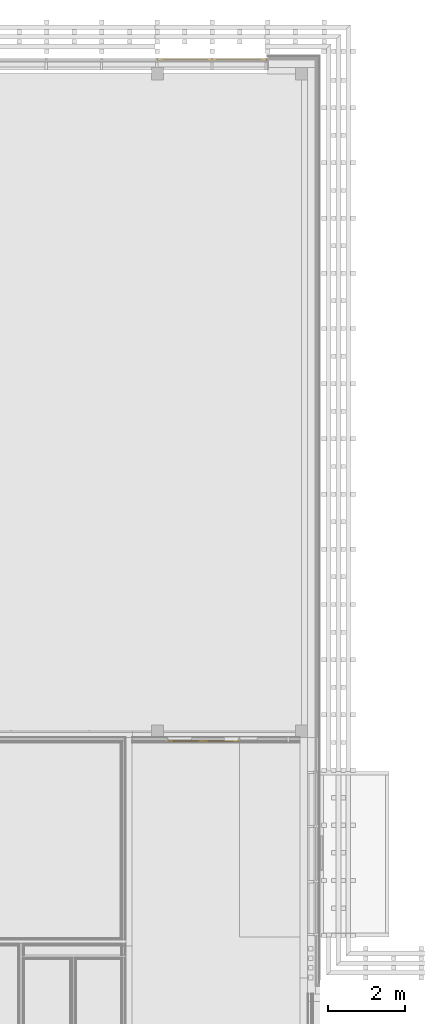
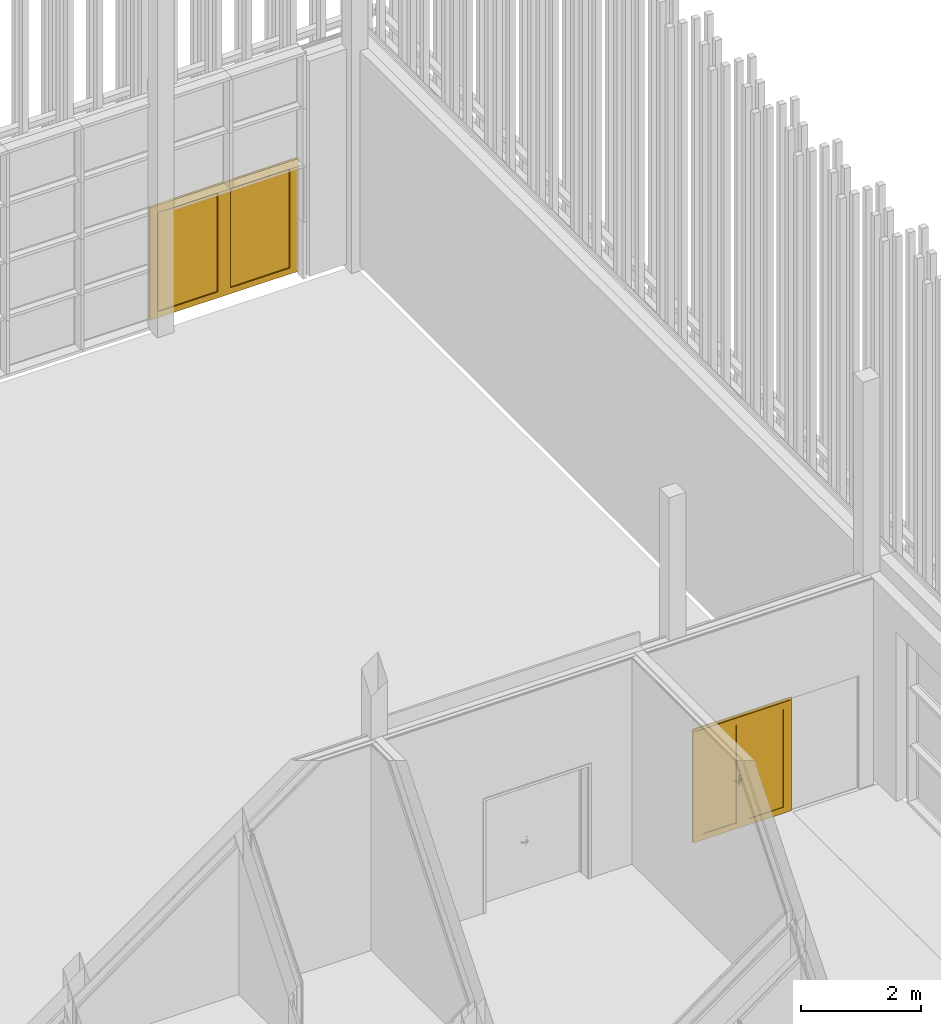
# One storey, part 253 of 260: 2 doors, 2 elements without a shape of their own.
"""IFC2X3 building model written with IfcOpenShell, lengths in millimetres."""

import ifcopenshell
import ifcopenshell.guid

model = None  # the IFC model being written
_history = None  # IfcOwnerHistory: only IFC2X3 demands one
_inside = {}  # id of a spatial element -> (the spatial element, [elements in it])
_under = {}  # id of a project, library or spatial element -> (it, [spatial elements below it])
_declared = {}  # id of a project -> (the project, [libraries it declares])
_typed = {}  # id of a type object -> (the type object, [elements of that type])
_made_of = {}  # id of a material, layer set ... -> (it, [elements and type objects made of it])


def new_model(schema):
    """Start an empty IFC model of exactly this schema.

    Asked for "IFC4X3", IfcOpenShell would pick the latest addendum, in which some entities
    have other attributes; the version numbers below select the first issue.
    IFC2X3 requires an IfcOwnerHistory on every rooted entity: one is made here for all.
    """
    global model, _history
    if schema == "IFC4X3":
        model = ifcopenshell.file(schema_version=(4, 3, 0, 0))
    else:
        model = ifcopenshell.file(schema=schema)
    _inside.clear()
    _under.clear()
    _declared.clear()
    _typed.clear()
    _made_of.clear()
    _history = None
    if model.schema == "IFC2X3":
        org = make("IfcOrganization", Name="unknown")
        user = make(
            "IfcPersonAndOrganization",
            ThePerson=make("IfcPerson", FamilyName="unknown"),
            TheOrganization=org,
        )
        app = make(
            "IfcApplication",
            ApplicationDeveloper=org,
            Version="unknown",
            ApplicationFullName="unknown",
            ApplicationIdentifier="unknown",
        )
        _history = make(
            "IfcOwnerHistory",
            OwningUser=user,
            OwningApplication=app,
            ChangeAction="ADDED",
            CreationDate=0,
        )
    return model


def make(cls, **values):
    """One entity of the class cls with the attributes given. An attribute that is None is left unset."""
    return model.create_entity(
        cls, **{name: value for name, value in values.items() if value is not None}
    )


def entity(cls, *values):
    """Any entity or typed value of the class cls, its attributes in the order of the schema. None: left unset."""
    e = model.create_entity(cls)
    for i, value in enumerate(values):
        if value is not None:
            e[i] = value
    return e


def rooted(cls, **values):
    """An entity with a GlobalId (a new one), such as an element, a storey or a relation."""
    return make(cls, GlobalId=ifcopenshell.guid.new(), OwnerHistory=_history, **values)


def si_unit(unit_type, name, prefix=None):
    """IfcSIUnit, for example si_unit("LENGTHUNIT", "METRE", prefix="MILLI")."""
    return make("IfcSIUnit", UnitType=unit_type, Prefix=prefix, Name=name)


def converted_unit(unit_type, name, factor, base, dimensions=None, offset=None):
    """IfcConversionBasedUnit, such as the inch: factor (a typed value) times the base unit."""
    return make(
        "IfcConversionBasedUnit"
        if offset is None
        else "IfcConversionBasedUnitWithOffset",
        ConversionOffset=offset,
        Dimensions=None
        if dimensions is None
        else entity("IfcDimensionalExponents", *dimensions),
        UnitType=unit_type,
        Name=name,
        ConversionFactor=make(
            "IfcMeasureWithUnit", ValueComponent=factor, UnitComponent=base
        ),
    )


def derived_unit(unit_type, elements):
    """IfcDerivedUnit: a product of units, each with its exponent."""
    return make(
        "IfcDerivedUnit",
        Elements=[
            make("IfcDerivedUnitElement", Unit=unit, Exponent=power)
            for unit, power in elements
        ],
        UnitType=unit_type,
    )


def money_unit(currency):
    """IfcMonetaryUnit."""
    return make("IfcMonetaryUnit", Currency=currency)


def assignment(units):
    """IfcUnitAssignment: the units of a project."""
    return None if units is None else make("IfcUnitAssignment", Units=units)


def point(xyz):
    """IfcCartesianPoint."""
    return None if xyz is None else make("IfcCartesianPoint", Coordinates=xyz)


def direction(xyz):
    """IfcDirection."""
    return None if xyz is None else make("IfcDirection", DirectionRatios=xyz)


def frame(location, z_axis=None, x_axis=None):
    """IfcAxis2Placement3D, a coordinate frame: its origin and axes. An axis left out is left unset."""
    return make(
        "IfcAxis2Placement3D",
        Location=point(location),
        Axis=direction(z_axis),
        RefDirection=direction(x_axis),
    )


def origin_with_axes():
    """The frame at (0, 0, 0) with the z axis (0, 0, 1) and the x axis (1, 0, 0) written out."""
    return frame((0.0, 0.0, 0.0), z_axis=(0.0, 0.0, 1.0), x_axis=(1.0, 0.0, 0.0))


def place(relative_to, where):
    """IfcLocalPlacement: puts the frame where relative to a parent placement (None: the world)."""
    return make(
        "IfcLocalPlacement", PlacementRelTo=relative_to, RelativePlacement=where
    )


def context(
    kind, dimensions, precision=None, world=None, true_north=None, identifier=None
):
    """IfcGeometricRepresentationContext, for example the 3D "Model" context."""
    return make(
        "IfcGeometricRepresentationContext",
        ContextIdentifier=identifier,
        ContextType=kind,
        CoordinateSpaceDimension=dimensions,
        Precision=precision,
        WorldCoordinateSystem=world,
        TrueNorth=true_north,
    )


def subcontext(parent, identifier, kind, view, scale=None):
    """IfcGeometricRepresentationSubContext, for example "Body" below "Model"."""
    return make(
        "IfcGeometricRepresentationSubContext",
        ContextIdentifier=identifier,
        ContextType=kind,
        ParentContext=parent,
        TargetScale=scale,
        TargetView=view,
    )


def project(units=None, contexts=None):
    """IfcProject with its units and contexts."""
    return rooted(
        "IfcProject",
        Name="project",
        RepresentationContexts=contexts,
        UnitsInContext=assignment(units),
    )


def spatial(cls, under=None, at=None, **own):
    """A site, building, storey or space (cls), placed at a placement, below another one or the project."""
    s = rooted(cls, ObjectPlacement=at, **own)
    if under is not None:
        _under.setdefault(under.id(), (under, []))[1].append(s)
    return s


def faces_of(points, faces, orient=None, outer=None):
    """IfcFace entities. A face is a list of loops; a loop is a list of indices into points, from 0.

    orient and outer hold one flag for each loop. By default every Orientation is true, the
    first loop of a face is its IfcFaceOuterBound and the others are IfcFaceBound.
    """
    made = []
    for i, loops in enumerate(faces):
        bounds = []
        for j, loop in enumerate(loops):
            is_outer = j == 0 if outer is None else outer[i][j]
            bounds.append(
                make(
                    "IfcFaceOuterBound" if is_outer else "IfcFaceBound",
                    Bound=make("IfcPolyLoop", Polygon=[points[k] for k in loop]),
                    Orientation=True if orient is None else orient[i][j],
                )
            )
        made.append(make("IfcFace", Bounds=bounds))
    return made


def open_shell(faces, orient=None, outer=None):
    """The faces of one IfcOpenShell. surface_model builds it on its shared points."""
    return ("IfcOpenShell", faces, orient, outer)


def faceted_brep(points, faces, orient=None, outer=None, voids=None):
    """IfcFacetedBrep: a solid bounded by flat faces; with voids (closed shells), ...WithVoids."""
    shared = [point(p) for p in points]
    hull = make("IfcClosedShell", CfsFaces=faces_of(shared, faces, orient, outer))
    if voids is None:
        return make("IfcFacetedBrep", Outer=hull)
    return make(
        "IfcFacetedBrepWithVoids",
        Outer=hull,
        Voids=[
            make(cls, CfsFaces=faces_of(shared, fs, o, b)) for cls, fs, o, b in voids
        ],
    )


def surface_model(cls, points, shells):
    """IfcFaceBasedSurfaceModel or IfcShellBasedSurfaceModel (cls): surfaces that need not close."""
    shared = [point(p) for p in points]
    made = [make(c, CfsFaces=faces_of(shared, fs, o, b)) for c, fs, o, b in shells]
    if cls == "IfcFaceBasedSurfaceModel":
        return make(cls, FbsmFaces=made)
    return make(cls, SbsmBoundary=made)


def shape(context_of_items, identifier, shape_type, items):
    """IfcShapeRepresentation: the items that make up one representation, for example the "Body"."""
    return make(
        "IfcShapeRepresentation",
        ContextOfItems=context_of_items,
        RepresentationIdentifier=identifier,
        RepresentationType=shape_type,
        Items=items,
    )


def material(Name=None, Category=None):
    """IfcMaterial."""
    return make("IfcMaterial", Name=Name, Category=Category)


def material_list(materials):
    """IfcMaterialList."""
    return make("IfcMaterialList", Materials=materials)


def made_of(thing, what):
    """Note that an element or type object is made of a material, layer set ...; save() writes the relation."""
    if what is not None:
        _made_of.setdefault(what.id(), (what, []))[1].append(thing)
    return thing


def type_object(cls, material=None, **own):
    """A type object (cls), such as IfcWallType, which elements share."""
    return made_of(rooted(cls, **own), material)


def element(
    cls,
    number,
    at=None,
    inside=None,
    cuts=None,
    type_object=None,
    material=None,
    context=None,
    identifier="Body",
    shape_type=None,
    held_by="IfcProductDefinitionShape",
    body=None,
    shapes=None,
    **own,
):
    """One element of the class cls, such as IfcWall. Its Tag is "e" and its number.

    at: its placement. inside: the storey or other place that contains it. cuts: it is an
    opening in that element (IfcRelVoidsElement). A single representation is given by context,
    identifier, shape_type and body (its items); several are given by shapes. held_by: the class
    of the entity that holds the representations. save() writes the other relations.
    """
    e = rooted(cls, Tag="e%d" % number, ObjectPlacement=at, **own)
    if body is not None:
        shapes = [shape(context, identifier, shape_type, body)]
    if shapes is not None:
        e.Representation = make(held_by, Representations=shapes)
    if inside is not None:
        _inside.setdefault(inside.id(), (inside, []))[1].append(e)
    if cuts is not None:
        rooted(
            "IfcRelVoidsElement", RelatingBuildingElement=cuts, RelatedOpeningElement=e
        )
    if type_object is not None:
        _typed.setdefault(type_object.id(), (type_object, []))[1].append(e)
    return made_of(e, material)


def aggregate(whole, parts):
    """IfcRelAggregates: a whole, such as a stair, and the parts it consists of."""
    return rooted("IfcRelAggregates", RelatingObject=whole, RelatedObjects=parts)


def save(model, path):
    """Write the relations noted so far, then the file.

    IfcRelAggregates (storeys below a building ...), IfcRelContainedInSpatialStructure (elements
    in a storey), IfcRelDefinesByType, IfcRelAssociatesMaterial and IfcRelDeclares: one each for
    every whole, place, type object, material and project.
    """
    for whole, parts in _under.values():
        aggregate(whole, parts)
    for where, things in _inside.values():
        rooted(
            "IfcRelContainedInSpatialStructure",
            RelatedElements=things,
            RelatingStructure=where,
        )
    for kind, things in _typed.values():
        rooted("IfcRelDefinesByType", RelatedObjects=things, RelatingType=kind)
    for what, things in _made_of.values():
        rooted("IfcRelAssociatesMaterial", RelatedObjects=things, RelatingMaterial=what)
    for by, libraries in _declared.values():
        rooted("IfcRelDeclares", RelatingContext=by, RelatedDefinitions=libraries)
    model.write(path)


model = new_model("IFC2X3")

# Units and contexts
model_context = context("Model", 3, precision=0.01, world=origin_with_axes(), true_north=direction((0.0, 1.0)))
body_context = subcontext(model_context, "Body", "Model", "MODEL_VIEW")
ifc_project = project(units=[si_unit("LENGTHUNIT", "METRE", prefix="MILLI"), si_unit("AREAUNIT", "SQUARE_METRE"), si_unit("VOLUMEUNIT", "CUBIC_METRE"), converted_unit("PLANEANGLEUNIT", "DEGREE", entity("IfcPlaneAngleMeasure", 0.0174532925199), si_unit("PLANEANGLEUNIT", "RADIAN"), dimensions=[0, 0, 0, 0, 0, 0, 0]), money_unit("EUR"), converted_unit("TIMEUNIT", "Year", entity("IfcTimeMeasure", 31556926.0), si_unit("TIMEUNIT", "SECOND"), dimensions=[0, 0, 1, 0, 0, 0, 0]), si_unit("MASSUNIT", "GRAM", prefix="KILO"), si_unit("THERMODYNAMICTEMPERATUREUNIT", "DEGREE_CELSIUS"), si_unit("LUMINOUSINTENSITYUNIT", "LUMEN"), si_unit("ENERGYUNIT", "JOULE", prefix="MEGA"), derived_unit("THERMALCONDUCTANCEUNIT", [(si_unit("POWERUNIT", "WATT"), 1), (si_unit("LENGTHUNIT", "METRE"), -1), (si_unit("THERMODYNAMICTEMPERATUREUNIT", "KELVIN"), -1)]), derived_unit("SPECIFICHEATCAPACITYUNIT", [(si_unit("ENERGYUNIT", "JOULE"), 1), (si_unit("MASSUNIT", "GRAM", prefix="KILO"), -1), (si_unit("THERMODYNAMICTEMPERATUREUNIT", "KELVIN"), -1)]), derived_unit("MASSDENSITYUNIT", [(si_unit("MASSUNIT", "GRAM", prefix="KILO"), 1), (si_unit("VOLUMEUNIT", "CUBIC_METRE"), -1)])], contexts=[model_context])

# Site, building, storey
site_placement = place(None, origin_with_axes())
site = spatial("IfcSite", under=ifc_project, at=site_placement, Name="Kolde pst 67a", CompositionType="ELEMENT")
building_placement = place(site_placement, origin_with_axes())
building = spatial("IfcBuilding", under=site, at=building_placement, Name="Riigigümnaasium", CompositionType="ELEMENT")
storey_placement = place(building_placement, origin_with_axes())
storey = spatial("IfcBuildingStorey", under=building, at=storey_placement, Name="1. korrus", CompositionType="ELEMENT", Elevation=0.0)

# Curtain wall, door
curtain_wall_type = type_object("IfcCurtainWallType", Name="Curtain Wall Type", PredefinedType="NOTDEFINED")
curtain_wall_1_placement = place(storey_placement, frame((10366.0828546, 84639.9999608, 0.0), z_axis=(0.0, 0.0, 1.0), x_axis=(1.0, 0.0, 0.0)))
curtain_wall_1 = element("IfcCurtainWall", 1, at=curtain_wall_1_placement, inside=storey, type_object=curtain_wall_type, Name="KLAASFASSAAD")
ifc_material_1 = material(Name="_METALL - alumiinium")
ifc_material_2 = material(Name="_KLAAS - kirgas")
ifc_material_list_1 = material_list([ifc_material_1, ifc_material_2])
door_style_1 = type_object("IfcDoorStyle", Name="1425 x 1145 x 48", ConstructionType="NOTDEFINED", OperationType="DOUBLE_DOOR_SINGLE_SWING", ParameterTakesPrecedence=False, Sizeable=False)
door_1_placement = place(curtain_wall_1_placement, frame((23882.7834923, 0.0, 1035.0), z_axis=(0.0, 0.0, 1.0), x_axis=(1.0, 0.0, 0.0)))
door_1 = element("IfcDoor", 2, at=door_1_placement, type_object=door_style_1, material=ifc_material_list_1, Name="Kahepoolne välisuks", ObjectType="DOOR", OverallHeight=2275.0, OverallWidth=2810.0, context=body_context, shape_type="Brep", body=[
    faceted_brep([(1117.21652554, -21.0, -1035.0), (1117.21652554, -16.0, -1035.0), (1117.21652554, -16.0, 1240.00001591), (1117.21652554, -21.0, 1240.00001591), (1072.21652554, -21.0, -1035.0), (1072.21652554, -16.0, -1035.0), (1072.21652554, -16.0, 1195.00001591), (1072.21652554, -21.0, 1195.00001591)], [[[0, 1, 2, 3]], [[4, 5, 1, 0]], [[1, 5, 6, 2]], [[3, 2, 6, 7]], [[0, 3, 7, 4]], [[7, 6, 5, 4]]]),
    faceted_brep([(-1692.78349262, -21.0, 1240.00001591), (-1692.78349262, -16.0, 1240.00001591), (-1647.78349262, -16.0, 1195.00001591), (-1647.78349262, -21.0, 1195.00001591), (1117.21652554, -21.0, 1240.00001591), (1117.21652554, -16.0, 1240.00001591), (1072.21652554, -16.0, 1195.00001591), (1072.21652554, -21.0, 1195.00001591)], [[[0, 1, 2, 3]], [[4, 5, 1, 0]], [[1, 5, 6, 2]], [[3, 2, 6, 7]], [[0, 3, 7, 4]], [[7, 6, 5, 4]]]),
    faceted_brep([(-1692.78349262, -21.0, -1035.0), (-1692.78349262, -16.0, -1035.0), (-1647.78349262, -16.0, -1035.0), (-1647.78349262, -21.0, -1035.0), (-1692.78349262, -21.0, 1240.00001591), (-1692.78349262, -16.0, 1240.00001591), (-1647.78349262, -16.0, 1195.00001591), (-1647.78349262, -21.0, 1195.00001591)], [[[0, 1, 2, 3]], [[4, 5, 1, 0]], [[1, 5, 6, 2]], [[3, 2, 6, 7]], [[0, 3, 7, 4]], [[7, 6, 5, 4]]]),
    faceted_brep([(1117.21652554, -16.0, -1035.0), (1117.21652554, 34.0, -1035.0), (1117.21652554, 34.0, 1240.00001591), (1117.21652554, -16.0, 1240.00001591), (1097.21652554, -16.0, -1035.0), (1097.21652554, 34.0, -1035.0), (1097.21652554, 34.0, 1220.00001591), (1097.21652554, -16.0, 1220.00001591)], [[[0, 1, 2, 3]], [[4, 5, 1, 0]], [[1, 5, 6, 2]], [[3, 2, 6, 7]], [[0, 3, 7, 4]], [[7, 6, 5, 4]]]),
    faceted_brep([(-1692.78349262, -16.0, 1240.00001591), (-1692.78349262, 34.0, 1240.00001591), (-1672.78349262, 34.0, 1220.00001591), (-1672.78349262, -16.0, 1220.00001591), (1117.21652554, -16.0, 1240.00001591), (1117.21652554, 34.0, 1240.00001591), (1097.21652554, 34.0, 1220.00001591), (1097.21652554, -16.0, 1220.00001591)], [[[0, 1, 2, 3]], [[4, 5, 1, 0]], [[1, 5, 6, 2]], [[3, 2, 6, 7]], [[0, 3, 7, 4]], [[7, 6, 5, 4]]]),
    faceted_brep([(-1692.78349262, -16.0, -1035.0), (-1692.78349262, 34.0, -1035.0), (-1672.78349262, 34.0, -1035.0), (-1672.78349262, -16.0, -1035.0), (-1692.78349262, -16.0, 1240.00001591), (-1692.78349262, 34.0, 1240.00001591), (-1672.78349262, 34.0, 1220.00001591), (-1672.78349262, -16.0, 1220.00001591)], [[[0, 1, 2, 3]], [[4, 5, 1, 0]], [[1, 5, 6, 2]], [[3, 2, 6, 7]], [[0, 3, 7, 4]], [[7, 6, 5, 4]]]),
    faceted_brep([(1137.21649965, -24.0, -1035.0), (1137.21649965, 24.0, -1035.0), (1137.21649965, 24.0, 1259.99999003), (1137.21649965, -24.0, 1259.99999003), (1117.21652554, -24.0, -1035.0), (1117.21652554, 24.0, -1035.0), (1117.21652554, 24.0, 1240.00001591), (1117.21652554, -24.0, 1240.00001591)], [[[0, 1, 2, 3]], [[4, 5, 1, 0]], [[1, 5, 6, 2]], [[3, 2, 6, 7]], [[0, 3, 7, 4]], [[7, 6, 5, 4]]]),
    faceted_brep([(1137.21649965, -24.0, 1259.99999003), (1137.21649965, 24.0, 1259.99999003), (-1712.78350948, 24.0, 1259.99999003), (-1712.78350948, -24.0, 1259.99999003), (1117.21652554, -24.0, 1240.00001591), (1117.21652554, 24.0, 1240.00001591), (-1692.78349262, 24.0, 1240.00001591), (-1692.78349262, -24.0, 1240.00001591)], [[[0, 1, 2, 3]], [[4, 5, 1, 0]], [[1, 5, 6, 2]], [[3, 2, 6, 7]], [[0, 3, 7, 4]], [[7, 6, 5, 4]]]),
    faceted_brep([(-1712.78350948, -24.0, 1259.99999003), (-1712.78350948, 24.0, 1259.99999003), (-1712.78350948, 24.0, -1035.0), (-1712.78350948, -24.0, -1035.0), (-1692.78349262, -24.0, 1240.00001591), (-1692.78349262, 24.0, 1240.00001591), (-1692.78349262, 24.0, -1035.0), (-1692.78349262, -24.0, -1035.0)], [[[0, 1, 2, 3]], [[4, 5, 1, 0]], [[1, 5, 6, 2]], [[3, 2, 6, 7]], [[0, 3, 7, 4]], [[7, 6, 5, 4]]]),
    faceted_brep([(-1552.78349262, -16.0, -915.0), (-1552.78349262, 34.0, -915.0), (-1552.78349262, 34.0, 1100.00001591), (-1552.78349262, -16.0, 1100.00001591), (-1672.78349262, -16.0, -1035.0), (-1672.78349262, 34.0, -1035.0), (-1672.78349262, 34.0, 1220.00001591), (-1672.78349262, -16.0, 1220.00001591)], [[[0, 1, 2, 3]], [[4, 5, 1, 0]], [[1, 5, 6, 2]], [[3, 2, 6, 7]], [[0, 3, 7, 4]], [[7, 6, 5, 4]]]),
    faceted_brep([(-287.78348354, -16.0, -1035.0), (-287.78348354, 34.0, -1035.0), (-287.78348354, 34.0, 1220.00001591), (-287.78348354, -16.0, 1220.00001591), (-407.78348354, -16.0, -915.0), (-407.78348354, 34.0, -915.0), (-407.78348354, 34.0, 1100.00001591), (-407.78348354, -16.0, 1100.00001591)], [[[0, 1, 2, 3]], [[4, 5, 1, 0]], [[1, 5, 6, 2]], [[3, 2, 6, 7]], [[0, 3, 7, 4]], [[7, 6, 5, 4]]]),
    faceted_brep([(-287.78348354, -16.0, -1035.0), (-287.78348354, 34.0, -1035.0), (-407.78348354, 34.0, -915.0), (-407.78348354, -16.0, -915.0), (-1672.78349262, -16.0, -1035.0), (-1672.78349262, 34.0, -1035.0), (-1552.78349262, 34.0, -915.0), (-1552.78349262, -16.0, -915.0)], [[[0, 1, 2, 3]], [[4, 5, 1, 0]], [[1, 5, 6, 2]], [[3, 2, 6, 7]], [[0, 3, 7, 4]], [[7, 6, 5, 4]]]),
    faceted_brep([(-1672.78349262, -16.0, 1220.00001591), (-1672.78349262, 34.0, 1220.00001591), (-1552.78349262, 34.0, 1100.00001591), (-1552.78349262, -16.0, 1100.00001591), (-287.78348354, -16.0, 1220.00001591), (-287.78348354, 34.0, 1220.00001591), (-407.78348354, 34.0, 1100.00001591), (-407.78348354, -16.0, 1100.00001591)], [[[0, 1, 2, 3]], [[4, 5, 1, 0]], [[1, 5, 6, 2]], [[3, 2, 6, 7]], [[0, 3, 7, 4]], [[7, 6, 5, 4]]]),
    faceted_brep([(-1552.78349262, 7.99999999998, -915.0), (-1552.78349262, 24.0, -915.0), (-407.78348354, 24.0, -915.0), (-407.78348354, 7.99999999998, -915.0), (-1552.78349262, 7.99999999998, 1100.00001591), (-1552.78349262, 24.0, 1100.00001591), (-407.78348354, 24.0, 1100.00001591), (-407.78348354, 7.99999999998, 1100.00001591)], [[[0, 1, 2, 3]], [[4, 5, 1, 0]], [[1, 5, 6, 2]], [[3, 2, 6, 7]], [[0, 3, 7, 4]], [[7, 6, 5, 4]]]),
    faceted_brep([(-167.78348354, -16.0, -915.0), (-167.78348354, 34.0, -915.0), (-167.78348354, 34.0, 1100.00001591), (-167.78348354, -16.0, 1100.00001591), (-287.78348354, -16.0, -1035.0), (-287.78348354, 34.0, -1035.0), (-287.78348354, 34.0, 1220.00001591), (-287.78348354, -16.0, 1220.00001591)], [[[0, 1, 2, 3]], [[4, 5, 1, 0]], [[1, 5, 6, 2]], [[3, 2, 6, 7]], [[0, 3, 7, 4]], [[7, 6, 5, 4]]]),
    faceted_brep([(1097.21652554, -16.0, -1035.0), (1097.21652554, 34.0, -1035.0), (1097.21652554, 34.0, 1220.00001591), (1097.21652554, -16.0, 1220.00001591), (977.216525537, -16.0, -915.0), (977.216525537, 34.0, -915.0), (977.216525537, 34.0, 1100.00001591), (977.216525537, -16.0, 1100.00001591)], [[[0, 1, 2, 3]], [[4, 5, 1, 0]], [[1, 5, 6, 2]], [[3, 2, 6, 7]], [[0, 3, 7, 4]], [[7, 6, 5, 4]]]),
    faceted_brep([(1097.21652554, -16.0, -1035.0), (1097.21652554, 34.0, -1035.0), (977.216525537, 34.0, -915.0), (977.216525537, -16.0, -915.0), (-287.78348354, -16.0, -1035.0), (-287.78348354, 34.0, -1035.0), (-167.78348354, 34.0, -915.0), (-167.78348354, -16.0, -915.0)], [[[0, 1, 2, 3]], [[4, 5, 1, 0]], [[1, 5, 6, 2]], [[3, 2, 6, 7]], [[0, 3, 7, 4]], [[7, 6, 5, 4]]]),
    faceted_brep([(-287.78348354, -16.0, 1220.00001591), (-287.78348354, 34.0, 1220.00001591), (-167.78348354, 34.0, 1100.00001591), (-167.78348354, -16.0, 1100.00001591), (1097.21652554, -16.0, 1220.00001591), (1097.21652554, 34.0, 1220.00001591), (977.216525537, 34.0, 1100.00001591), (977.216525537, -16.0, 1100.00001591)], [[[0, 1, 2, 3]], [[4, 5, 1, 0]], [[1, 5, 6, 2]], [[3, 2, 6, 7]], [[0, 3, 7, 4]], [[7, 6, 5, 4]]]),
    faceted_brep([(-167.78348354, 7.99999999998, -915.0), (-167.78348354, 24.0, -915.0), (977.216525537, 24.0, -915.0), (977.216525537, 7.99999999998, -915.0), (-167.78348354, 7.99999999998, 1100.00001591), (-167.78348354, 24.0, 1100.00001591), (977.216525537, 24.0, 1100.00001591), (977.216525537, 7.99999999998, 1100.00001591)], [[[0, 1, 2, 3]], [[4, 5, 1, 0]], [[1, 5, 6, 2]], [[3, 2, 6, 7]], [[0, 3, 7, 4]], [[7, 6, 5, 4]]]),
])
aggregate(curtain_wall_1, [door_1])

curtain_wall_2_placement = place(storey_placement, frame((33792.224013, 66989.9967931, 0.0), z_axis=(0.0, 0.0, 1.0), x_axis=(1.0, 0.0, 0.0)))
curtain_wall_2 = element("IfcCurtainWall", 3, at=curtain_wall_2_placement, inside=storey, type_object=curtain_wall_type, Name="KLAASSEIN")
ifc_material_3 = material(Name="_METALL - roostevaba terasleht, harjatud, 1mm")
ifc_material_list_2 = material_list([ifc_material_1, ifc_material_2, ifc_material_3])
door_style_2 = type_object("IfcDoorStyle", Name="20 x 20 x 20", ConstructionType="NOTDEFINED", OperationType="DOUBLE_DOOR_SINGLE_SWING", ParameterTakesPrecedence=False, Sizeable=False)
door_2_placement = place(curtain_wall_2_placement, frame((0.0, 0.0, 1150.0), z_axis=(0.0, 0.0, 1.0), x_axis=(-1.0, 0.0, 0.0)))
door_2 = element("IfcDoor", 4, at=door_2_placement, type_object=door_style_2, material=ifc_material_list_2, Name="Klaasseina uks", ObjectType="DOOR", OverallHeight=2250.0, OverallWidth=1846.56, context=body_context, shape_type="SurfaceModel", body=[
    faceted_brep([(-866.835348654, -35.0, -1150.0), (-866.835348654, -35.0, 1099.99999851), (-866.835348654, -30.0, 1099.99999851), (-866.835348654, -30.0, -1150.0), (-821.835348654, -35.0, -1150.0), (-821.835348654, -35.0, 1054.99999851), (-821.835348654, -30.0, 1054.99999851), (-821.835348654, -30.0, -1150.0)], [[[0, 1, 2, 3]], [[0, 4, 5, 1]], [[1, 5, 6, 2]], [[3, 2, 6, 7]], [[4, 0, 3, 7]], [[5, 4, 7, 6]]]),
    faceted_brep([(979.724275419, -35.0, 1099.99999851), (934.724275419, -35.0, 1054.99999851), (934.724275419, -30.0, 1054.99999851), (979.724275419, -30.0, 1099.99999851), (-866.835348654, -35.0, 1099.99999851), (-821.835348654, -35.0, 1054.99999851), (-821.835348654, -30.0, 1054.99999851), (-866.835348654, -30.0, 1099.99999851)], [[[0, 1, 2, 3]], [[0, 4, 5, 1]], [[1, 5, 6, 2]], [[3, 2, 6, 7]], [[4, 0, 3, 7]], [[5, 4, 7, 6]]]),
    faceted_brep([(979.724275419, -35.0, -1150.0), (934.724275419, -35.0, -1150.0), (934.724275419, -30.0, -1150.0), (979.724275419, -30.0, -1150.0), (979.724275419, -35.0, 1099.99999851), (934.724275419, -35.0, 1054.99999851), (934.724275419, -30.0, 1054.99999851), (979.724275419, -30.0, 1099.99999851)], [[[0, 1, 2, 3]], [[0, 4, 5, 1]], [[1, 5, 6, 2]], [[3, 2, 6, 7]], [[4, 0, 3, 7]], [[5, 4, 7, 6]]]),
    faceted_brep([(-866.835348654, -30.0, -1150.0), (-866.835348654, -30.0, 1099.99999851), (-866.835348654, 20.0, 1099.99999851), (-866.835348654, 20.0, -1150.0), (-846.835348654, -30.0, -1150.0), (-846.835348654, -30.0, 1079.99999851), (-846.835348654, 20.0, 1079.99999851), (-846.835348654, 20.0, -1150.0)], [[[0, 1, 2, 3]], [[0, 4, 5, 1]], [[1, 5, 6, 2]], [[3, 2, 6, 7]], [[4, 0, 3, 7]], [[5, 4, 7, 6]]]),
    faceted_brep([(979.724275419, -30.0, 1099.99999851), (959.724275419, -30.0, 1079.99999851), (959.724275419, 20.0, 1079.99999851), (979.724275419, 20.0, 1099.99999851), (-866.835348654, -30.0, 1099.99999851), (-846.835348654, -30.0, 1079.99999851), (-846.835348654, 20.0, 1079.99999851), (-866.835348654, 20.0, 1099.99999851)], [[[0, 1, 2, 3]], [[0, 4, 5, 1]], [[1, 5, 6, 2]], [[3, 2, 6, 7]], [[4, 0, 3, 7]], [[5, 4, 7, 6]]]),
    faceted_brep([(979.724275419, -30.0, -1150.0), (959.724275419, -30.0, -1150.0), (959.724275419, 20.0, -1150.0), (979.724275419, 20.0, -1150.0), (979.724275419, -30.0, 1099.99999851), (959.724275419, -30.0, 1079.99999851), (959.724275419, 20.0, 1079.99999851), (979.724275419, 20.0, 1099.99999851)], [[[0, 1, 2, 3]], [[0, 4, 5, 1]], [[1, 5, 6, 2]], [[3, 2, 6, 7]], [[4, 0, 3, 7]], [[5, 4, 7, 6]]]),
    faceted_brep([(-896.835329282, -10.0, -1150.0), (-896.835329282, -10.0, 1150.0), (-896.835329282, 10.0, 1150.0), (-896.835329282, 10.0, -1150.0), (-866.835348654, -10.0, -1150.0), (-866.835348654, -10.0, 1099.99999851), (-866.835348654, 10.0, 1099.99999851), (-866.835348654, 10.0, -1150.0)], [[[0, 1, 2, 3]], [[0, 4, 5, 1]], [[1, 5, 6, 2]], [[3, 2, 6, 7]], [[4, 0, 3, 7]], [[5, 4, 7, 6]]]),
    faceted_brep([(-896.835329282, -10.0, 1150.0), (1009.72428287, -10.0, 1150.0), (1009.72428287, 10.0, 1150.0), (-896.835329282, 10.0, 1150.0), (-866.835348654, -10.0, 1099.99999851), (979.724275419, -10.0, 1099.99999851), (979.724275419, 10.0, 1099.99999851), (-866.835348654, 10.0, 1099.99999851)], [[[0, 1, 2, 3]], [[0, 4, 5, 1]], [[1, 5, 6, 2]], [[3, 2, 6, 7]], [[4, 0, 3, 7]], [[5, 4, 7, 6]]]),
    faceted_brep([(1009.72428287, -10.0, 1150.0), (1009.72428287, -10.0, -1150.0), (1009.72428287, 10.0, -1150.0), (1009.72428287, 10.0, 1150.0), (979.724275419, -10.0, 1099.99999851), (979.724275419, -10.0, -1150.0), (979.724275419, 10.0, -1150.0), (979.724275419, 10.0, 1099.99999851)], [[[0, 1, 2, 3]], [[0, 4, 5, 1]], [[1, 5, 6, 2]], [[3, 2, 6, 7]], [[4, 0, 3, 7]], [[5, 4, 7, 6]]]),
    faceted_brep([(839.724275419, -30.0, -1030.0), (839.724275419, -30.0, 959.99999851), (839.724275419, 20.0, 959.99999851), (839.724275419, 20.0, -1030.0), (959.724275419, -30.0, -1150.0), (959.724275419, -30.0, 1079.99999851), (959.724275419, 20.0, 1079.99999851), (959.724275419, 20.0, -1150.0)], [[[0, 1, 2, 3]], [[0, 4, 5, 1]], [[1, 5, 6, 2]], [[3, 2, 6, 7]], [[4, 0, 3, 7]], [[5, 4, 7, 6]]]),
    faceted_brep([(56.4444633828, -30.0, -1150.0), (56.4444633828, -30.0, 1079.99999851), (56.4444633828, 20.0, 1079.99999851), (56.4444633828, 20.0, -1150.0), (176.444463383, -30.0, -1030.0), (176.444463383, -30.0, 959.99999851), (176.444463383, 20.0, 959.99999851), (176.444463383, 20.0, -1030.0)], [[[0, 1, 2, 3]], [[0, 4, 5, 1]], [[1, 5, 6, 2]], [[3, 2, 6, 7]], [[4, 0, 3, 7]], [[5, 4, 7, 6]]]),
    faceted_brep([(56.4444633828, -30.0, -1150.0), (176.444463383, -30.0, -1030.0), (176.444463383, 20.0, -1030.0), (56.4444633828, 20.0, -1150.0), (959.724275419, -30.0, -1150.0), (839.724275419, -30.0, -1030.0), (839.724275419, 20.0, -1030.0), (959.724275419, 20.0, -1150.0)], [[[0, 1, 2, 3]], [[0, 4, 5, 1]], [[1, 5, 6, 2]], [[3, 2, 6, 7]], [[4, 0, 3, 7]], [[5, 4, 7, 6]]]),
    faceted_brep([(959.724275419, -30.0, 1079.99999851), (839.724275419, -30.0, 959.99999851), (839.724275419, 20.0, 959.99999851), (959.724275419, 20.0, 1079.99999851), (56.4444633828, -30.0, 1079.99999851), (176.444463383, -30.0, 959.99999851), (176.444463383, 20.0, 959.99999851), (56.4444633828, 20.0, 1079.99999851)], [[[0, 1, 2, 3]], [[0, 4, 5, 1]], [[1, 5, 6, 2]], [[3, 2, 6, 7]], [[4, 0, 3, 7]], [[5, 4, 7, 6]]]),
    faceted_brep([(839.724275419, -6.0, -1030.0), (176.444463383, -6.0, -1030.0), (176.444463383, 10.0, -1030.0), (839.724275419, 10.0, -1030.0), (839.724275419, -6.0, 959.99999851), (176.444463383, -6.0, 959.99999851), (176.444463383, 10.0, 959.99999851), (839.724275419, 10.0, 959.99999851)], [[[0, 1, 2, 3]], [[0, 4, 5, 1]], [[1, 5, 6, 2]], [[3, 2, 6, 7]], [[4, 0, 3, 7]], [[5, 4, 7, 6]]]),
    faceted_brep([(77.9444633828, 20.0, -90.0), (134.944463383, 20.0, -90.0), (134.944463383, 23.0, -90.0), (77.9444633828, 23.0, -90.0), (77.9444633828, 20.0, -280.0), (134.944463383, 20.0, -280.0), (134.944463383, 23.0, -280.0), (77.9444633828, 23.0, -280.0)], [[[0, 1, 2, 3]], [[0, 4, 5, 1]], [[1, 5, 6, 2]], [[3, 2, 6, 7]], [[4, 0, 3, 7]], [[5, 4, 7, 6]]]),
    faceted_brep([(110.152667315, 33.0, -161.412678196), (118.444463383, 33.0, -150.0), (119.444463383, 23.0, -150.0), (110.46168431, 23.0, -162.363734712), (96.7362594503, 33.0, -157.053423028), (96.7362594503, 33.0, -142.946576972), (110.152667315, 33.0, -138.587321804), (110.46168431, 23.0, -137.636265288), (95.9272424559, 23.0, -142.35879172), (95.9272424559, 23.0, -157.64120828)], [[[0, 1, 2, 3]], [[1, 0, 4, 5, 6]], [[1, 6, 7, 2]], [[2, 7, 8, 9, 3]], [[4, 0, 3, 9]], [[5, 4, 9, 8]], [[6, 5, 8, 7]]]),
    faceted_brep([(112.62480327, 27.0, -264.021130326), (126.444463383, 27.0, -245.0), (128.444463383, 23.0, -245.0), (113.242837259, 23.0, -265.923243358), (90.2641234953, 27.0, -256.755705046), (90.2641234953, 27.0, -233.244294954), (112.62480327, 27.0, -225.978869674), (113.242837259, 23.0, -224.076756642), (88.6460895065, 23.0, -232.06872445), (88.6460895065, 23.0, -257.93127555)], [[[0, 1, 2, 3]], [[1, 0, 4, 5, 6]], [[1, 6, 7, 2]], [[2, 7, 8, 9, 3]], [[4, 0, 3, 9]], [[5, 4, 9, 8]], [[6, 5, 8, 7]]]),
    faceted_brep([(108.607582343, 29.0, -242.657395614), (113.444463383, 29.0, -236.0), (114.444463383, 27.0, -236.0), (108.916599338, 27.0, -243.60845213), (100.781344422, 29.0, -240.114496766), (100.781344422, 29.0, -231.885503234), (108.607582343, 29.0, -229.342604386), (108.916599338, 27.0, -228.39154787), (99.9723274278, 27.0, -231.297717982), (99.9723274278, 27.0, -240.702282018)], [[[0, 1, 2, 3]], [[1, 0, 4, 5, 6]], [[1, 6, 7, 2]], [[2, 7, 8, 9, 3]], [[4, 0, 3, 9]], [[5, 4, 9, 8]], [[6, 5, 8, 7]]]),
    surface_model("IfcShellBasedSurfaceModel", [(116.444463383, 33.0, -150.0), (109.534633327, 33.0, -159.510565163), (109.534633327, 51.7200096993, -159.510565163), (116.444463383, 48.8578643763, -150.0), (98.354293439, 33.0, -155.877852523), (98.354293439, 56.3510581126, -155.877852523), (127.724453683, 69.9098300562, -159.510565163), (130.586599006, 63.0, -150.0), (109.534633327, 33.0, -140.489434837), (109.534633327, 51.7200096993, -140.489434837), (98.354293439, 33.0, -144.122147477), (98.354293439, 56.3510581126, -144.122147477), (123.09340527, 81.0901699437, -155.877852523), (195.164473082, 69.9098300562, -159.510565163), (192.302327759, 63.0, -150.0), (127.724453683, 69.9098300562, -140.489434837), (123.09340527, 81.0901699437, -144.122147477), (199.795521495, 81.0901699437, -155.877852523), (213.354293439, 51.7200096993, -159.510565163), (206.444463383, 48.8578643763, -150.0), (195.164473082, 69.9098300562, -140.489434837), (199.795521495, 81.0901699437, -144.122147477), (224.534633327, 56.3510581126, -155.877852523), (213.354293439, 33.0, -159.510565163), (206.444463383, 33.0, -150.0), (213.354293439, 51.7200096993, -140.489434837), (224.534633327, 56.3510581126, -144.122147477), (224.534633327, 33.0, -155.877852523), (224.534633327, 33.0, -144.122147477), (213.354293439, 33.0, -140.489434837)], [open_shell([[[0, 1, 2, 3]], [[1, 4, 5, 2]], [[3, 2, 6, 7]], [[8, 0, 3, 9]], [[4, 10, 11, 5]], [[2, 5, 12, 6]], [[7, 6, 13, 14]], [[9, 3, 7, 15]], [[10, 8, 9, 11]], [[5, 11, 16, 12]], [[6, 12, 17, 13]], [[14, 13, 18, 19]], [[15, 7, 14, 20]], [[11, 9, 15, 16]], [[12, 16, 21, 17]], [[13, 17, 22, 18]], [[19, 18, 23, 24]], [[20, 14, 19, 25]], [[16, 15, 20, 21]], [[17, 21, 26, 22]], [[18, 22, 27, 23]], [[24, 23, 27, 28, 29]], [[25, 19, 24, 29]], [[21, 20, 25, 26]], [[22, 26, 28, 27]], [[26, 25, 29, 28]]])]),
    faceted_brep([(77.9444633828, -30.0, -90.0), (77.9444633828, -33.0, -90.0), (134.944463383, -33.0, -90.0), (134.944463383, -30.0, -90.0), (77.9444633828, -30.0, -280.0), (77.9444633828, -33.0, -280.0), (134.944463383, -33.0, -280.0), (134.944463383, -30.0, -280.0)], [[[0, 1, 2, 3]], [[4, 5, 1, 0]], [[1, 5, 6, 2]], [[3, 2, 6, 7]], [[0, 3, 7, 4]], [[7, 6, 5, 4]]]),
    faceted_brep([(110.152667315, -43.0, -161.412678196), (110.46168431, -33.0, -162.363734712), (119.444463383, -33.0, -150.0), (118.444463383, -43.0, -150.0), (96.7362594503, -43.0, -157.053423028), (95.9272424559, -33.0, -157.64120828), (95.9272424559, -33.0, -142.35879172), (110.46168431, -33.0, -137.636265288), (110.152667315, -43.0, -138.587321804), (96.7362594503, -43.0, -142.946576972)], [[[0, 1, 2, 3]], [[4, 5, 1, 0]], [[2, 1, 5, 6, 7]], [[3, 2, 7, 8]], [[3, 8, 9, 4, 0]], [[9, 6, 5, 4]], [[8, 7, 6, 9]]]),
    faceted_brep([(112.62480327, -37.0, -264.021130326), (113.242837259, -33.0, -265.923243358), (128.444463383, -33.0, -245.0), (126.444463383, -37.0, -245.0), (90.2641234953, -37.0, -256.755705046), (88.6460895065, -33.0, -257.93127555), (88.6460895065, -33.0, -232.06872445), (113.242837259, -33.0, -224.076756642), (112.62480327, -37.0, -225.978869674), (90.2641234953, -37.0, -233.244294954)], [[[0, 1, 2, 3]], [[4, 5, 1, 0]], [[2, 1, 5, 6, 7]], [[3, 2, 7, 8]], [[3, 8, 9, 4, 0]], [[9, 6, 5, 4]], [[8, 7, 6, 9]]]),
    faceted_brep([(108.607582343, -39.0, -242.657395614), (108.916599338, -37.0, -243.60845213), (114.444463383, -37.0, -236.0), (113.444463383, -39.0, -236.0), (100.781344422, -39.0, -240.114496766), (99.9723274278, -37.0, -240.702282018), (99.9723274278, -37.0, -231.297717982), (108.916599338, -37.0, -228.39154787), (108.607582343, -39.0, -229.342604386), (100.781344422, -39.0, -231.885503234)], [[[0, 1, 2, 3]], [[4, 5, 1, 0]], [[2, 1, 5, 6, 7]], [[3, 2, 7, 8]], [[3, 8, 9, 4, 0]], [[9, 6, 5, 4]], [[8, 7, 6, 9]]]),
    surface_model("IfcShellBasedSurfaceModel", [(116.444463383, -43.0, -150.0), (116.444463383, -58.8578643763, -150.0), (109.534633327, -61.7200096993, -159.510565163), (109.534633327, -43.0, -159.510565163), (109.534633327, -43.0, -140.489434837), (109.534633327, -61.7200096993, -140.489434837), (130.586599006, -73.0, -150.0), (127.724453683, -79.9098300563, -159.510565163), (98.354293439, -66.3510581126, -155.877852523), (98.354293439, -43.0, -155.877852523), (98.354293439, -43.0, -144.122147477), (98.354293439, -66.3510581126, -144.122147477), (127.724453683, -79.9098300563, -140.489434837), (192.302327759, -73.0, -150.0), (195.164473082, -79.9098300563, -159.510565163), (123.09340527, -91.0901699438, -155.877852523), (123.09340527, -91.0901699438, -144.122147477), (195.164473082, -79.9098300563, -140.489434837), (206.444463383, -58.8578643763, -150.0), (213.354293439, -61.7200096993, -159.510565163), (199.795521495, -91.0901699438, -155.877852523), (199.795521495, -91.0901699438, -144.122147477), (213.354293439, -61.7200096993, -140.489434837), (206.444463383, -43.0, -150.0), (213.354293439, -43.0, -159.510565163), (224.534633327, -66.3510581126, -155.877852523), (224.534633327, -66.3510581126, -144.122147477), (213.354293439, -43.0, -140.489434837), (224.534633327, -43.0, -144.122147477), (224.534633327, -43.0, -155.877852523)], [open_shell([[[0, 1, 2, 3]], [[4, 5, 1, 0]], [[1, 6, 7, 2]], [[3, 2, 8, 9]], [[10, 11, 5, 4]], [[5, 12, 6, 1]], [[6, 13, 14, 7]], [[2, 7, 15, 8]], [[9, 8, 11, 10]], [[11, 16, 12, 5]], [[12, 17, 13, 6]], [[13, 18, 19, 14]], [[7, 14, 20, 15]], [[8, 15, 16, 11]], [[16, 21, 17, 12]], [[17, 22, 18, 13]], [[18, 23, 24, 19]], [[14, 19, 25, 20]], [[15, 20, 21, 16]], [[21, 26, 22, 17]], [[22, 27, 23, 18]], [[23, 27, 28, 29, 24]], [[19, 24, 29, 25]], [[20, 25, 26, 21]], [[26, 28, 27, 22]], [[25, 29, 28, 26]]])]),
    faceted_brep([(-63.5555366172, -30.0, -1030.0), (-63.5555366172, -30.0, 959.99999851), (-63.5555366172, 20.0, 959.99999851), (-63.5555366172, 20.0, -1030.0), (56.4444633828, -30.0, -1150.0), (56.4444633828, -30.0, 1079.99999851), (56.4444633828, 20.0, 1079.99999851), (56.4444633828, 20.0, -1150.0)], [[[0, 1, 2, 3]], [[0, 4, 5, 1]], [[1, 5, 6, 2]], [[3, 2, 6, 7]], [[4, 0, 3, 7]], [[5, 4, 7, 6]]]),
    faceted_brep([(-846.835348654, -30.0, -1150.0), (-846.835348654, -30.0, 1079.99999851), (-846.835348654, 20.0, 1079.99999851), (-846.835348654, 20.0, -1150.0), (-726.835348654, -30.0, -1030.0), (-726.835348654, -30.0, 959.99999851), (-726.835348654, 20.0, 959.99999851), (-726.835348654, 20.0, -1030.0)], [[[0, 1, 2, 3]], [[0, 4, 5, 1]], [[1, 5, 6, 2]], [[3, 2, 6, 7]], [[4, 0, 3, 7]], [[5, 4, 7, 6]]]),
    faceted_brep([(-846.835348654, -30.0, -1150.0), (-726.835348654, -30.0, -1030.0), (-726.835348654, 20.0, -1030.0), (-846.835348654, 20.0, -1150.0), (56.4444633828, -30.0, -1150.0), (-63.5555366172, -30.0, -1030.0), (-63.5555366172, 20.0, -1030.0), (56.4444633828, 20.0, -1150.0)], [[[0, 1, 2, 3]], [[0, 4, 5, 1]], [[1, 5, 6, 2]], [[3, 2, 6, 7]], [[4, 0, 3, 7]], [[5, 4, 7, 6]]]),
    faceted_brep([(56.4444633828, -30.0, 1079.99999851), (-63.5555366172, -30.0, 959.99999851), (-63.5555366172, 20.0, 959.99999851), (56.4444633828, 20.0, 1079.99999851), (-846.835348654, -30.0, 1079.99999851), (-726.835348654, -30.0, 959.99999851), (-726.835348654, 20.0, 959.99999851), (-846.835348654, 20.0, 1079.99999851)], [[[0, 1, 2, 3]], [[0, 4, 5, 1]], [[1, 5, 6, 2]], [[3, 2, 6, 7]], [[4, 0, 3, 7]], [[5, 4, 7, 6]]]),
    faceted_brep([(-63.5555366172, -6.0, -1030.0), (-726.835348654, -6.0, -1030.0), (-726.835348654, 10.0, -1030.0), (-63.5555366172, 10.0, -1030.0), (-63.5555366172, -6.0, 959.99999851), (-726.835348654, -6.0, 959.99999851), (-726.835348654, 10.0, 959.99999851), (-63.5555366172, 10.0, 959.99999851)], [[[0, 1, 2, 3]], [[0, 4, 5, 1]], [[1, 5, 6, 2]], [[3, 2, 6, 7]], [[4, 0, 3, 7]], [[5, 4, 7, 6]]]),
])
aggregate(curtain_wall_2, [door_2])

save(model, "model.ifc")
